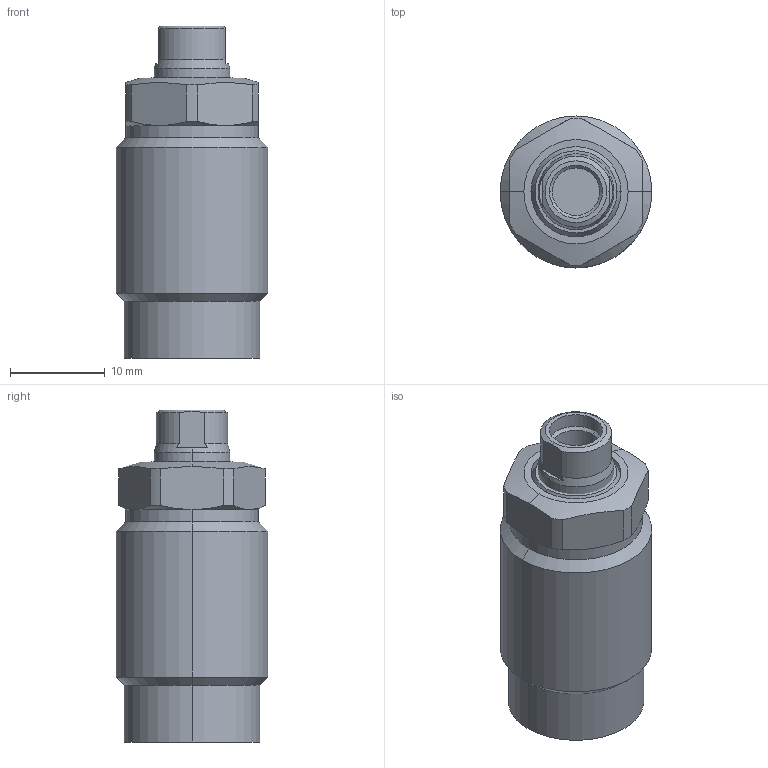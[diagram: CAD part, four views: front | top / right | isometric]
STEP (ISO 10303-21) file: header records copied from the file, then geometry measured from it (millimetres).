
FILE_DESCRIPTION((' '),'2;1');
FILE_NAME( 'TGP16-AS.x_t.stp', '2025-02-10T16:03:50', (' '), ('--- Datakit www.datakit.com---'), ' Datakit CrossCadWare V2024.1 Dec 21 2023', 'Mastercam 2025', ' ');
FILE_SCHEMA(('AUTOMOTIVE_DESIGN { 1 0 10303 214 1 1 1 1 }'));
Length unit declared in the file: millimetre
Products named in the file (1): TGP16-AS
Bounding box: 16 x 16 x 35 mm (x, y, z)
Volume: 5647.2 mm3; surface area: 2487 mm2
Topology: 2 solids, 2 shells, 77 faces, 176 edges, 110 vertices
Faces by surface type: cylinder 30, cone 22, plane 21, torus 4
Entity records: 2296 total; most frequent: CARTESIAN_POINT 508, DIRECTION 396, ORIENTED_EDGE 352, EDGE_CURVE 176, AXIS2_PLACEMENT_3D 170, VERTEX_POINT 110, CIRCLE 92, EDGE_LOOP 84
